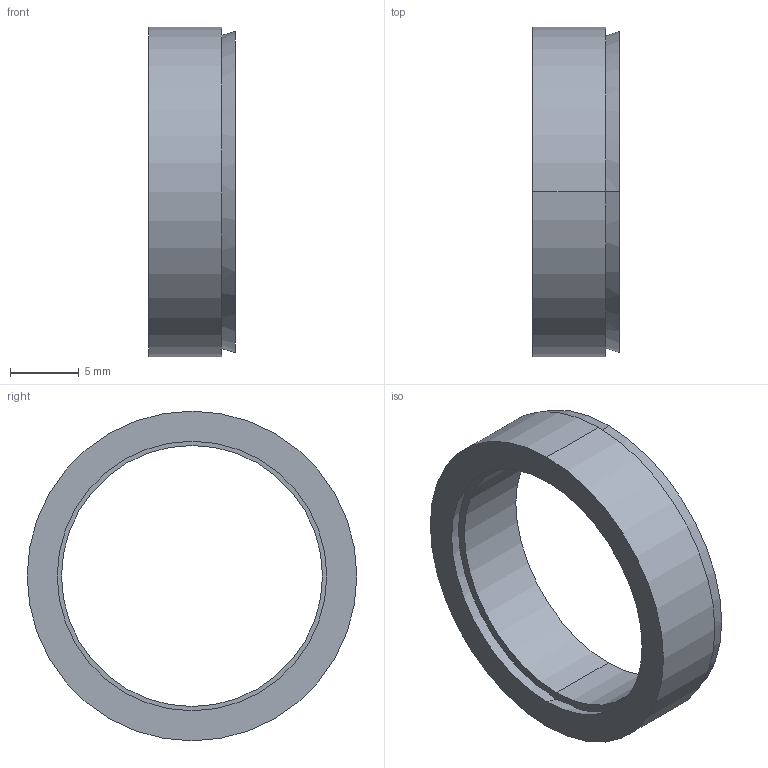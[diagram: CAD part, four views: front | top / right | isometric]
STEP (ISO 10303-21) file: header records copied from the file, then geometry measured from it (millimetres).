
FILE_DESCRIPTION (( 'STEP AP203' ), '1' );
FILE_NAME ('R-19-24.STEP', '2017-11-06T02:04:17', ( 'MYCOM' ), ( '' ), 'SwSTEP 2.0', 'SolidWorks 2015', '' );
FILE_SCHEMA (( 'CONFIG_CONTROL_DESIGN' ));
Length unit declared in the file: millimetre
Products named in the file (1): R-19-24
Bounding box: 6.3 x 24 x 24 mm (x, y, z)
Surface area: 1841.7 mm2 (no closed solid volume)
Topology: 0 solids, 2 shells, 12 faces, 24 edges, 16 vertices
Faces by surface type: cylinder 4, cone 4, plane 4
Entity records: 406 total; most frequent: DIRECTION 66, CARTESIAN_POINT 53, ORIENTED_EDGE 48, AXIS2_PLACEMENT_3D 29, EDGE_CURVE 24, EDGE_LOOP 16, CIRCLE 16, VERTEX_POINT 16
